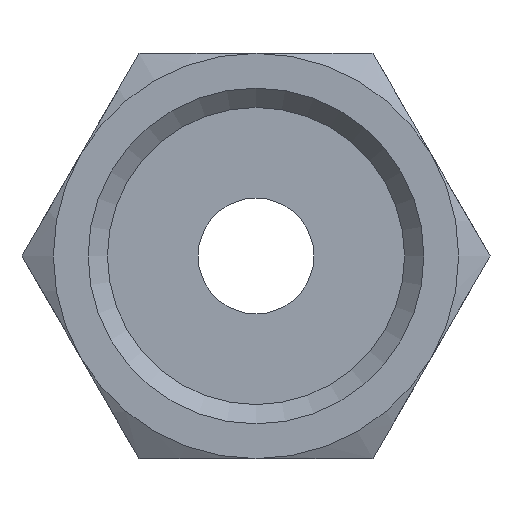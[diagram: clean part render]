
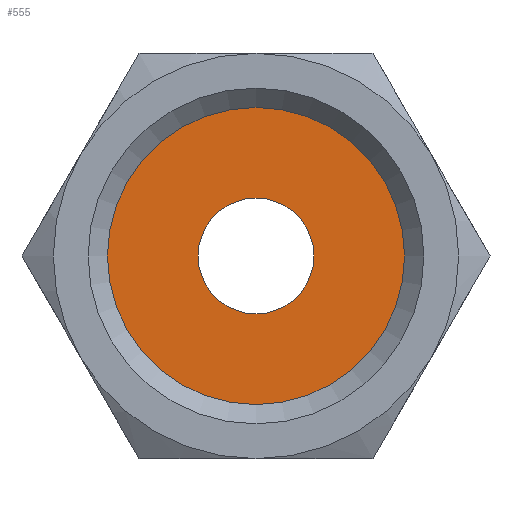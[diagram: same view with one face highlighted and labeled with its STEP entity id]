
A CAD part, front view. The second image highlights one B-rep face of the part: STEP entity #555.
In plain terms, the highlighted planar face has unit normal (0, -1, 0).
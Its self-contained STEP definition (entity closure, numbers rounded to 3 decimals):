
#42=FACE_BOUND('',#172,.T.);
#55=PLANE('',#641);
#134=FACE_OUTER_BOUND('',#171,.T.);
#171=EDGE_LOOP('',(#493,#494));
#172=EDGE_LOOP('',(#495,#496));
#200=CIRCLE('',#605,7.698);
#201=CIRCLE('',#606,7.698);
#214=CIRCLE('',#642,3.);
#215=CIRCLE('',#643,3.);
#243=VERTEX_POINT('',#875);
#244=VERTEX_POINT('',#877);
#269=VERTEX_POINT('',#1019);
#270=VERTEX_POINT('',#1020);
#302=EDGE_CURVE('',#244,#243,#200,.T.);
#303=EDGE_CURVE('',#243,#244,#201,.T.);
#348=EDGE_CURVE('',#269,#270,#214,.T.);
#349=EDGE_CURVE('',#270,#269,#215,.T.);
#493=ORIENTED_EDGE('',*,*,#302,.T.);
#494=ORIENTED_EDGE('',*,*,#303,.T.);
#495=ORIENTED_EDGE('',*,*,#348,.F.);
#496=ORIENTED_EDGE('',*,*,#349,.F.);
#555=ADVANCED_FACE('',(#134,#42),#55,.T.);
#605=AXIS2_PLACEMENT_3D('',#878,#711,#712);
#606=AXIS2_PLACEMENT_3D('',#879,#713,#714);
#641=AXIS2_PLACEMENT_3D('',#1018,#791,#792);
#642=AXIS2_PLACEMENT_3D('',#1021,#793,#794);
#643=AXIS2_PLACEMENT_3D('',#1022,#795,#796);
#711=DIRECTION('center_axis',(0.,-1.,0.));
#712=DIRECTION('ref_axis',(1.,0.,0.));
#713=DIRECTION('center_axis',(0.,-1.,0.));
#714=DIRECTION('ref_axis',(1.,0.,0.));
#791=DIRECTION('center_axis',(0.,-1.,0.));
#792=DIRECTION('ref_axis',(0.,0.,-1.));
#793=DIRECTION('center_axis',(0.,-1.,0.));
#794=DIRECTION('ref_axis',(1.,0.,0.));
#795=DIRECTION('center_axis',(0.,-1.,0.));
#796=DIRECTION('ref_axis',(1.,0.,0.));
#875=CARTESIAN_POINT('',(-7.698,12.,0.));
#877=CARTESIAN_POINT('',(7.698,12.,0.));
#878=CARTESIAN_POINT('Origin',(0.,12.,0.));
#879=CARTESIAN_POINT('Origin',(0.,12.,0.));
#1018=CARTESIAN_POINT('Origin',(3.,12.,0.));
#1019=CARTESIAN_POINT('',(3.,12.,0.));
#1020=CARTESIAN_POINT('',(-3.,12.,0.));
#1021=CARTESIAN_POINT('Origin',(0.,12.,0.));
#1022=CARTESIAN_POINT('Origin',(0.,12.,0.));
